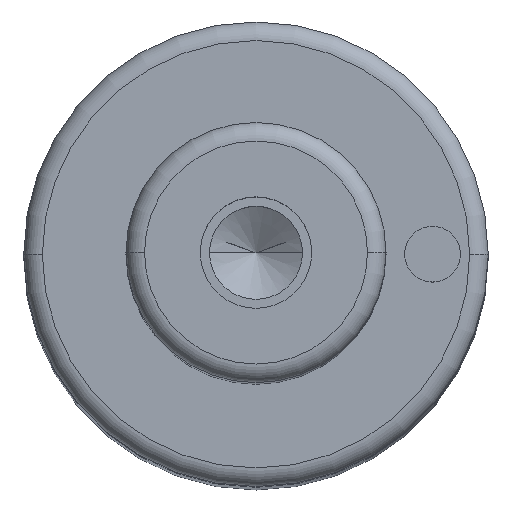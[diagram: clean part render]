
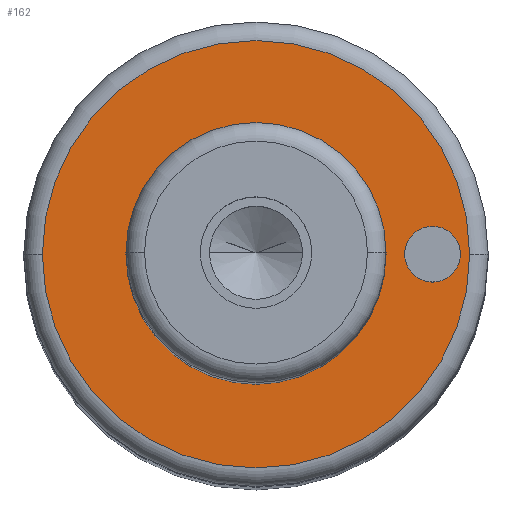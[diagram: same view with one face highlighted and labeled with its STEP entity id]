
A CAD part, top view. The second image highlights one B-rep face of the part: STEP entity #162.
In plain terms, the highlighted planar face has unit normal (0, 0, 1).
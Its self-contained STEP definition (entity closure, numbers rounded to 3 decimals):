
#105=PLANE('',#660);
#113=FACE_BOUND('',#237,.T.);
#114=FACE_BOUND('',#238,.T.);
#115=FACE_BOUND('',#239,.T.);
#162=ADVANCED_FACE('',(#113,#114,#115),#105,.T.);
#237=EDGE_LOOP('',(#393,#394));
#238=EDGE_LOOP('',(#395,#396));
#239=EDGE_LOOP('',(#397,#398));
#269=CIRCLE('',#628,7.);
#270=CIRCLE('',#630,7.);
#274=CIRCLE('',#635,11.5);
#275=CIRCLE('',#637,11.5);
#287=CIRCLE('',#658,1.5);
#288=CIRCLE('',#659,1.5);
#393=ORIENTED_EDGE('',*,*,#512,.F.);
#394=ORIENTED_EDGE('',*,*,#513,.F.);
#395=ORIENTED_EDGE('',*,*,#531,.F.);
#396=ORIENTED_EDGE('',*,*,#532,.F.);
#397=ORIENTED_EDGE('',*,*,#508,.T.);
#398=ORIENTED_EDGE('',*,*,#506,.T.);
#454=VERTEX_POINT('',#925);
#455=VERTEX_POINT('',#927);
#456=VERTEX_POINT('',#933);
#459=VERTEX_POINT('',#938);
#468=VERTEX_POINT('',#977);
#469=VERTEX_POINT('',#978);
#506=EDGE_CURVE('',#455,#454,#269,.T.);
#508=EDGE_CURVE('',#454,#455,#270,.T.);
#512=EDGE_CURVE('',#459,#456,#274,.T.);
#513=EDGE_CURVE('',#456,#459,#275,.T.);
#531=EDGE_CURVE('',#468,#469,#287,.T.);
#532=EDGE_CURVE('',#469,#468,#288,.T.);
#628=AXIS2_PLACEMENT_3D('',#926,#749,#750);
#630=AXIS2_PLACEMENT_3D('',#930,#754,#755);
#635=AXIS2_PLACEMENT_3D('',#939,#764,#765);
#637=AXIS2_PLACEMENT_3D('',#941,#768,#769);
#658=AXIS2_PLACEMENT_3D('',#976,#816,#817);
#659=AXIS2_PLACEMENT_3D('',#979,#818,#819);
#660=AXIS2_PLACEMENT_3D('',#980,#820,#821);
#749=DIRECTION('',(0.,0.,-1.));
#750=DIRECTION('',(0.,1.,0.));
#754=DIRECTION('',(0.,0.,-1.));
#755=DIRECTION('',(0.,-1.,0.));
#764=DIRECTION('',(0.,0.,-1.));
#765=DIRECTION('',(0.,1.,0.));
#768=DIRECTION('',(0.,0.,-1.));
#769=DIRECTION('',(0.,-1.,0.));
#816=DIRECTION('',(0.,0.,1.));
#817=DIRECTION('',(0.,1.,0.));
#818=DIRECTION('',(0.,0.,1.));
#819=DIRECTION('',(0.,-1.,0.));
#820=DIRECTION('',(0.,0.,1.));
#821=DIRECTION('',(0.,-1.,0.));
#925=CARTESIAN_POINT('',(-7.,0.,108.));
#926=CARTESIAN_POINT('',(0.,0.,108.));
#927=CARTESIAN_POINT('',(7.,0.,108.));
#930=CARTESIAN_POINT('',(0.,0.,108.));
#933=CARTESIAN_POINT('',(-11.5,0.,108.));
#938=CARTESIAN_POINT('',(11.5,0.,108.));
#939=CARTESIAN_POINT('',(0.,0.,108.));
#941=CARTESIAN_POINT('',(0.,0.,108.));
#976=CARTESIAN_POINT('',(9.5,0.,108.));
#977=CARTESIAN_POINT('',(8.,0.,108.));
#978=CARTESIAN_POINT('',(11.,0.,108.));
#979=CARTESIAN_POINT('',(9.5,0.,108.));
#980=CARTESIAN_POINT('',(0.,0.,108.));
